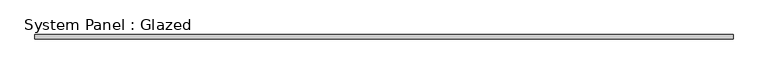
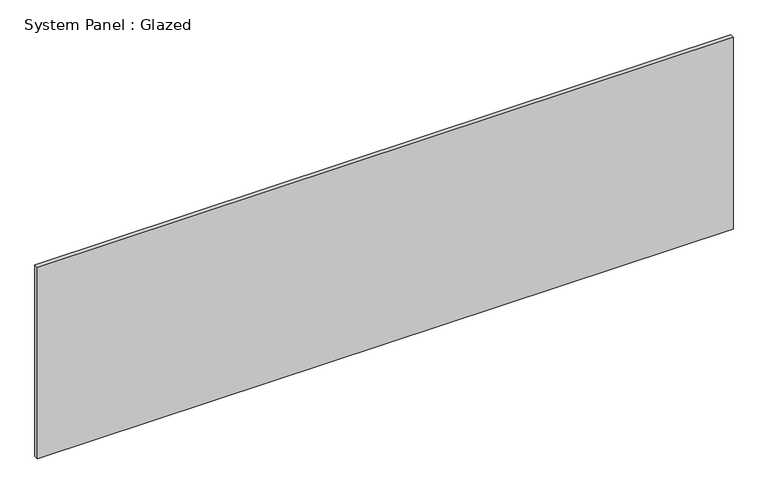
"""IFC4 building model written with IfcOpenShell, lengths in millimetres: plate geometry, System Panel : Glazed."""

from ifc_helpers import new_model, si_unit, origin, origin_with_axes, place, context, project, spatial, polyline, outline, extrude, source, transform, mapped, element, save


def system_panel_glazed_c3dc520e(model_context):
    return source(origin(), model_context, "Body", "SweptSolid", [
        extrude(outline(polyline([(1975.0, -49.5), (-1975.0, -49.5), (-1975.0, -24.5), (1975.0, -24.5), (1975.0, -49.5)])), origin_with_axes(), (0.0, 0.0, 1.0), 1150.0),
    ])


if __name__ == "__main__":
    model = new_model("IFC4")
    model_context = context("Model", 3, world=origin())
    ifc_project = project(units=[si_unit("LENGTHUNIT", "METRE", prefix="MILLI")], contexts=[model_context])
    site = spatial("IfcSite", under=ifc_project)
    building = spatial("IfcBuilding", under=site)
    placement = place(None, origin())
    system_panel_glazed_shape = system_panel_glazed_c3dc520e(model_context)
    element("IfcPlate", 1, ObjectType="System Panel : Glazed", at=placement, inside=building, context=model_context, shape_type="MappedRepresentation", body=[
        mapped(system_panel_glazed_shape, transform((0.0, 0.0, 0.0), x_axis=(1.0, 0.0, 0.0), y_axis=(0.0, 1.0, 0.0), z_axis=(0.0, 0.0, 1.0))),
    ])
    save(model, "model.ifc")
